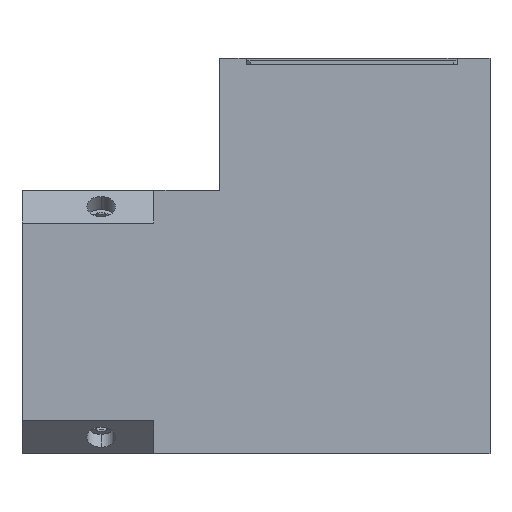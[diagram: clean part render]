
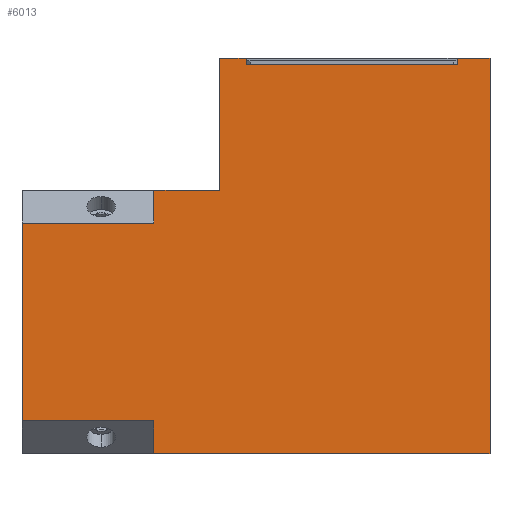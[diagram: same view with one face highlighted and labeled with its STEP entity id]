
A CAD part, left-side view. The second image highlights one B-rep face of the part: STEP entity #6013.
In plain terms, the highlighted planar face has unit normal (-1, 0, 0).
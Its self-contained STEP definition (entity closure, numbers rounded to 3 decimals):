
#104 = LINE ( 'NONE', #8605, #3927 ) ;
#292 = ORIENTED_EDGE ( 'NONE', *, *, #2726, .F. ) ;
#300 = ORIENTED_EDGE ( 'NONE', *, *, #9617, .F. ) ;
#308 = CARTESIAN_POINT ( 'NONE',  ( -10., -10.25, 20. ) ) ;
#325 = LINE ( 'NONE', #7263, #5495 ) ;
#390 = CARTESIAN_POINT ( 'NONE',  ( -10., 25.25, -7.5 ) ) ;
#843 = ORIENTED_EDGE ( 'NONE', *, *, #2613, .F. ) ;
#994 = DIRECTION ( 'NONE',  ( 0., 1., 0. ) ) ;
#1036 = ORIENTED_EDGE ( 'NONE', *, *, #5411, .F. ) ;
#1087 = VERTEX_POINT ( 'NONE', #3596 ) ;
#1145 = VERTEX_POINT ( 'NONE', #1864 ) ;
#1241 = CARTESIAN_POINT ( 'NONE',  ( -10., -7.75, 20. ) ) ;
#1544 = EDGE_CURVE ( 'NONE', #4852, #1145, #2396, .T. ) ;
#1574 = CARTESIAN_POINT ( 'NONE',  ( -10., 8.25, 19.5 ) ) ;
#1620 = ORIENTED_EDGE ( 'NONE', *, *, #5858, .F. ) ;
#1664 = CARTESIAN_POINT ( 'NONE',  ( -10., 25.25, -10. ) ) ;
#1714 = CARTESIAN_POINT ( 'NONE',  ( -10., 8.25, 19.5 ) ) ;
#1749 = PLANE ( 'NONE',  #4901 ) ;
#1835 = LINE ( 'NONE', #8770, #7107 ) ;
#1846 = CARTESIAN_POINT ( 'NONE',  ( -10., 15.25, 7.5 ) ) ;
#1864 = CARTESIAN_POINT ( 'NONE',  ( -10., 25.25, 7.5 ) ) ;
#2058 = CARTESIAN_POINT ( 'NONE',  ( -10., -7.75, 19.5 ) ) ;
#2065 = EDGE_CURVE ( 'NONE', #7782, #4062, #5646, .T. ) ;
#2093 = CARTESIAN_POINT ( 'NONE',  ( -10., -10.25, 20. ) ) ;
#2104 = LINE ( 'NONE', #9938, #5012 ) ;
#2396 = LINE ( 'NONE', #7818, #2452 ) ;
#2431 = VECTOR ( 'NONE', #4058, 1000. ) ;
#2452 = VECTOR ( 'NONE', #4570, 1000. ) ;
#2565 = CARTESIAN_POINT ( 'NONE',  ( -10., -10.25, -10. ) ) ;
#2613 = EDGE_CURVE ( 'NONE', #2695, #4852, #5904, .T. ) ;
#2621 = DIRECTION ( 'NONE',  ( 1., 0., 0. ) ) ;
#2695 = VERTEX_POINT ( 'NONE', #7672 ) ;
#2726 = EDGE_CURVE ( 'NONE', #7454, #1087, #4572, .T. ) ;
#2858 = CARTESIAN_POINT ( 'NONE',  ( -10., 10.25, 20. ) ) ;
#2953 = CARTESIAN_POINT ( 'NONE',  ( -10., -10.25, -10. ) ) ;
#2954 = LINE ( 'NONE', #2093, #8578 ) ;
#3138 = DIRECTION ( 'NONE',  ( 0., 0., 1. ) ) ;
#3186 = LINE ( 'NONE', #7887, #8141 ) ;
#3254 = CARTESIAN_POINT ( 'NONE',  ( -10., -7.75, 20. ) ) ;
#3596 = CARTESIAN_POINT ( 'NONE',  ( -10., 10.25, 10. ) ) ;
#3696 = VECTOR ( 'NONE', #7723, 1000. ) ;
#3927 = VECTOR ( 'NONE', #7856, 1000. ) ;
#4058 = DIRECTION ( 'NONE',  ( 0., -1., 0. ) ) ;
#4062 = VERTEX_POINT ( 'NONE', #2953 ) ;
#4074 = CARTESIAN_POINT ( 'NONE',  ( -10., 8.25, 20. ) ) ;
#4089 = VERTEX_POINT ( 'NONE', #2858 ) ;
#4331 = DIRECTION ( 'NONE',  ( 0., 0., -1. ) ) ;
#4417 = DIRECTION ( 'NONE',  ( 0., -1., 0. ) ) ;
#4570 = DIRECTION ( 'NONE',  ( 0., 0., 1. ) ) ;
#4572 = LINE ( 'NONE', #9295, #3696 ) ;
#4715 = ORIENTED_EDGE ( 'NONE', *, *, #9964, .T. ) ;
#4798 = LINE ( 'NONE', #1664, #7991 ) ;
#4852 = VERTEX_POINT ( 'NONE', #390 ) ;
#4901 = AXIS2_PLACEMENT_3D ( 'NONE', #6401, #2621, #5756 ) ;
#4979 = VECTOR ( 'NONE', #9792, 1000. ) ;
#5012 = VECTOR ( 'NONE', #9884, 1000. ) ;
#5080 = EDGE_LOOP ( 'NONE', ( #1620, #9903, #8733, #843, #7999, #1036, #5431, #300, #6176, #4715, #6741, #7769, #7653, #292 ) ) ;
#5150 = LINE ( 'NONE', #1241, #7338 ) ;
#5217 = CARTESIAN_POINT ( 'NONE',  ( -10., 15.25, -10. ) ) ;
#5411 = EDGE_CURVE ( 'NONE', #4062, #6977, #4798, .T. ) ;
#5431 = ORIENTED_EDGE ( 'NONE', *, *, #2065, .F. ) ;
#5480 = LINE ( 'NONE', #1574, #9546 ) ;
#5495 = VECTOR ( 'NONE', #8124, 1000. ) ;
#5496 = EDGE_CURVE ( 'NONE', #1145, #9204, #104, .T. ) ;
#5621 = LINE ( 'NONE', #308, #2431 ) ;
#5646 = LINE ( 'NONE', #2565, #8462 ) ;
#5756 = DIRECTION ( 'NONE',  ( 0., 0., -1. ) ) ;
#5858 = EDGE_CURVE ( 'NONE', #9204, #7454, #3186, .T. ) ;
#5904 = LINE ( 'NONE', #8998, #4979 ) ;
#6013 = ADVANCED_FACE ( 'NONE', ( #8692 ), #1749, .F. ) ;
#6123 = EDGE_CURVE ( 'NONE', #9476, #7583, #5150, .T. ) ;
#6176 = ORIENTED_EDGE ( 'NONE', *, *, #6123, .T. ) ;
#6342 = CARTESIAN_POINT ( 'NONE',  ( -10., 15.25, 10. ) ) ;
#6401 = CARTESIAN_POINT ( 'NONE',  ( -10., 0., 0. ) ) ;
#6624 = VERTEX_POINT ( 'NONE', #1714 ) ;
#6741 = ORIENTED_EDGE ( 'NONE', *, *, #9190, .T. ) ;
#6977 = VERTEX_POINT ( 'NONE', #5217 ) ;
#7102 = CARTESIAN_POINT ( 'NONE',  ( -10., -10.25, 20. ) ) ;
#7107 = VECTOR ( 'NONE', #8880, 1000. ) ;
#7263 = CARTESIAN_POINT ( 'NONE',  ( -10., 8.25, 20. ) ) ;
#7338 = VECTOR ( 'NONE', #4331, 1000. ) ;
#7454 = VERTEX_POINT ( 'NONE', #6342 ) ;
#7583 = VERTEX_POINT ( 'NONE', #2058 ) ;
#7653 = ORIENTED_EDGE ( 'NONE', *, *, #7918, .F. ) ;
#7672 = CARTESIAN_POINT ( 'NONE',  ( -10., 15.25, -7.5 ) ) ;
#7723 = DIRECTION ( 'NONE',  ( 0., -1., 0. ) ) ;
#7769 = ORIENTED_EDGE ( 'NONE', *, *, #8077, .F. ) ;
#7782 = VERTEX_POINT ( 'NONE', #7102 ) ;
#7818 = CARTESIAN_POINT ( 'NONE',  ( -10., 25.25, 10. ) ) ;
#7856 = DIRECTION ( 'NONE',  ( 0., -1., 0. ) ) ;
#7887 = CARTESIAN_POINT ( 'NONE',  ( -10., 15.25, 0. ) ) ;
#7918 = EDGE_CURVE ( 'NONE', #1087, #4089, #1835, .T. ) ;
#7991 = VECTOR ( 'NONE', #994, 1000. ) ;
#7999 = ORIENTED_EDGE ( 'NONE', *, *, #9325, .F. ) ;
#8077 = EDGE_CURVE ( 'NONE', #4089, #8519, #2954, .T. ) ;
#8124 = DIRECTION ( 'NONE',  ( 0., 0., 1. ) ) ;
#8141 = VECTOR ( 'NONE', #3138, 1000. ) ;
#8462 = VECTOR ( 'NONE', #8741, 1000. ) ;
#8519 = VERTEX_POINT ( 'NONE', #4074 ) ;
#8578 = VECTOR ( 'NONE', #4417, 1000. ) ;
#8605 = CARTESIAN_POINT ( 'NONE',  ( -10., 0., 7.5 ) ) ;
#8692 = FACE_OUTER_BOUND ( 'NONE', #5080, .T. ) ;
#8733 = ORIENTED_EDGE ( 'NONE', *, *, #1544, .F. ) ;
#8741 = DIRECTION ( 'NONE',  ( 0., 0., -1. ) ) ;
#8770 = CARTESIAN_POINT ( 'NONE',  ( -10., 10.25, 20. ) ) ;
#8880 = DIRECTION ( 'NONE',  ( 0., 0., 1. ) ) ;
#8998 = CARTESIAN_POINT ( 'NONE',  ( -10., 0., -7.5 ) ) ;
#9190 = EDGE_CURVE ( 'NONE', #6624, #8519, #325, .T. ) ;
#9204 = VERTEX_POINT ( 'NONE', #1846 ) ;
#9235 = DIRECTION ( 'NONE',  ( 0., 1., 0. ) ) ;
#9295 = CARTESIAN_POINT ( 'NONE',  ( -10., 10.25, 10. ) ) ;
#9325 = EDGE_CURVE ( 'NONE', #6977, #2695, #2104, .T. ) ;
#9476 = VERTEX_POINT ( 'NONE', #3254 ) ;
#9546 = VECTOR ( 'NONE', #9235, 1000. ) ;
#9617 = EDGE_CURVE ( 'NONE', #9476, #7782, #5621, .T. ) ;
#9792 = DIRECTION ( 'NONE',  ( 0., 1., 0. ) ) ;
#9884 = DIRECTION ( 'NONE',  ( 0., 0., 1. ) ) ;
#9903 = ORIENTED_EDGE ( 'NONE', *, *, #5496, .F. ) ;
#9938 = CARTESIAN_POINT ( 'NONE',  ( -10., 15.25, 0. ) ) ;
#9964 = EDGE_CURVE ( 'NONE', #7583, #6624, #5480, .T. ) ;
